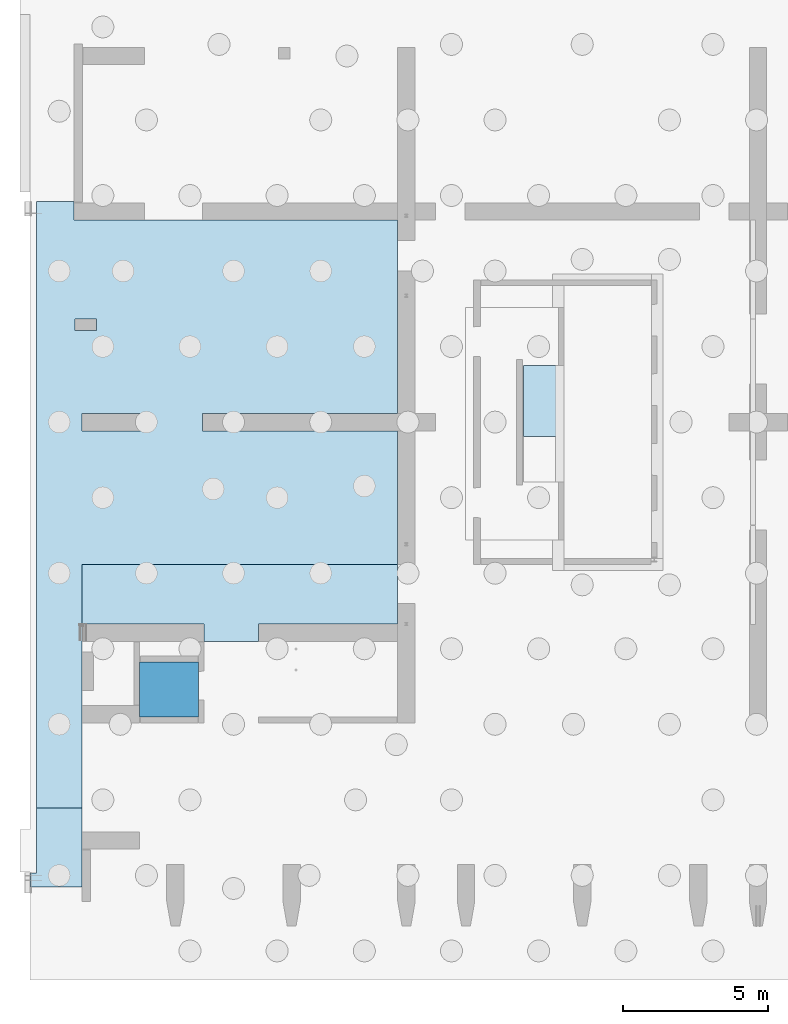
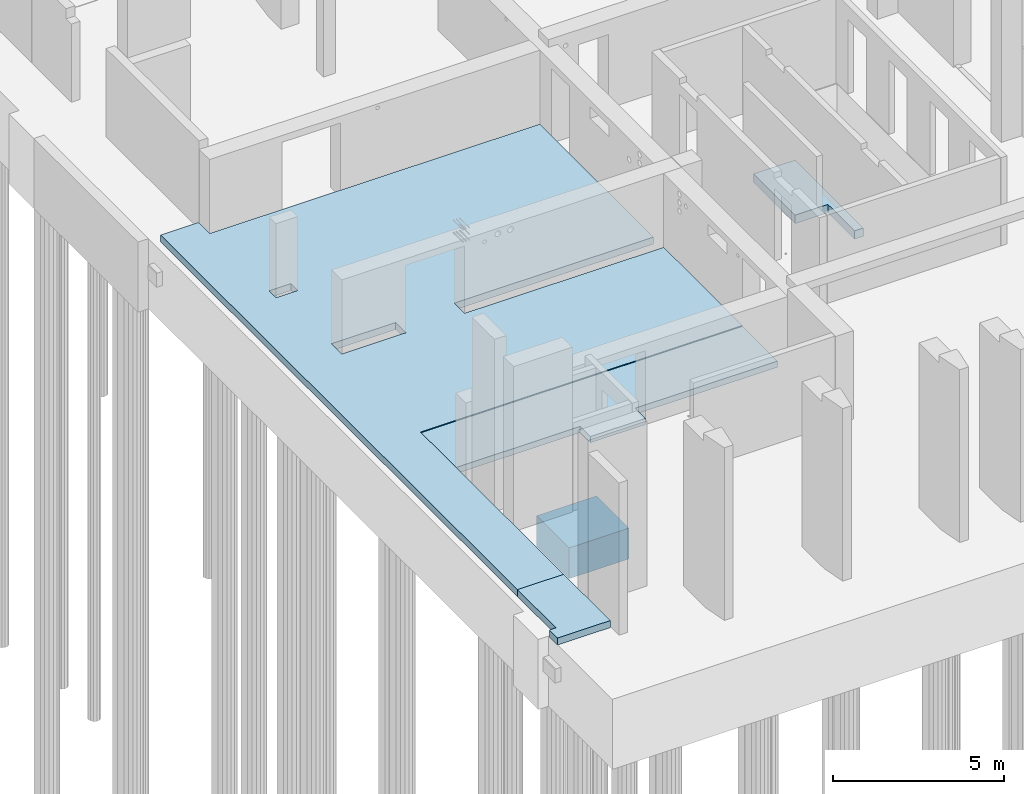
# One storey, part 17 of 26: 5 slabs, 2 openings.
"""IFC2X3 building model written with IfcOpenShell, lengths in millimetres."""

from ifc_helpers import new_model, entity, si_unit, converted_unit, derived_unit, direction, frame, frame_2d, origin, origin_2d_with_axis, place, context, subcontext, project, spatial, polyline, rectangle, outline, extrude, material, layer, layer_set, layer_usage, element, save


model = new_model("IFC2X3")

# Units and contexts
model_context = context("Model", 3, precision=0.01, world=origin(), true_north=direction((6.12303176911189e-17, 1.0)))
body_context = subcontext(model_context, "Body", "Model", "MODEL_VIEW")
ifc_project = project(units=[si_unit("LENGTHUNIT", "METRE", prefix="MILLI"), si_unit("AREAUNIT", "SQUARE_METRE"), si_unit("VOLUMEUNIT", "CUBIC_METRE"), converted_unit("PLANEANGLEUNIT", "DEGREE", entity("IfcRatioMeasure", 0.0174532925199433), si_unit("PLANEANGLEUNIT", "RADIAN"), dimensions=[0, 0, 0, 0, 0, 0, 0]), si_unit("MASSUNIT", "GRAM", prefix="KILO"), derived_unit("MASSDENSITYUNIT", [(si_unit("MASSUNIT", "GRAM", prefix="KILO"), 1), (si_unit("LENGTHUNIT", "METRE"), -3)]), si_unit("TIMEUNIT", "SECOND"), si_unit("FREQUENCYUNIT", "HERTZ"), si_unit("THERMODYNAMICTEMPERATUREUNIT", "DEGREE_CELSIUS"), derived_unit("THERMALTRANSMITTANCEUNIT", [(si_unit("MASSUNIT", "GRAM", prefix="KILO"), 1), (si_unit("THERMODYNAMICTEMPERATUREUNIT", "KELVIN"), -1), (si_unit("TIMEUNIT", "SECOND"), -3)]), derived_unit("VOLUMETRICFLOWRATEUNIT", [(si_unit("LENGTHUNIT", "METRE"), 3), (si_unit("TIMEUNIT", "SECOND"), -1)]), si_unit("ELECTRICCURRENTUNIT", "AMPERE"), si_unit("ELECTRICVOLTAGEUNIT", "VOLT"), si_unit("POWERUNIT", "WATT"), si_unit("FORCEUNIT", "NEWTON", prefix="KILO"), si_unit("ILLUMINANCEUNIT", "LUX"), si_unit("LUMINOUSFLUXUNIT", "LUMEN"), si_unit("LUMINOUSINTENSITYUNIT", "CANDELA"), derived_unit("USERDEFINED", [(si_unit("MASSUNIT", "GRAM", prefix="KILO"), -1), (si_unit("LENGTHUNIT", "METRE"), -2), (si_unit("TIMEUNIT", "SECOND"), 3), (si_unit("LUMINOUSFLUXUNIT", "LUMEN"), 1)]), derived_unit("LINEARVELOCITYUNIT", [(si_unit("LENGTHUNIT", "METRE"), 1), (si_unit("TIMEUNIT", "SECOND"), -1)]), si_unit("PRESSUREUNIT", "PASCAL"), derived_unit("USERDEFINED", [(si_unit("LENGTHUNIT", "METRE"), -2), (si_unit("MASSUNIT", "GRAM", prefix="KILO"), 1), (si_unit("TIMEUNIT", "SECOND"), -2)])], contexts=[model_context])

# Site, building, storey
site_placement = place(None, origin())
site = spatial("IfcSite", under=ifc_project, at=site_placement, Name="Default", CompositionType="ELEMENT")
building_placement = place(site_placement, origin())
building = spatial("IfcBuilding", under=site, at=building_placement, Name="niet gebruiken", CompositionType="ELEMENT")
storey_placement = place(building_placement, origin())
storey = spatial("IfcBuildingStorey", under=building, at=storey_placement, Name="00 begane grond", CompositionType="ELEMENT", Elevation=0.0)

# Slabs
ifc_material = material(Name="NLRS_f2_beton ihwg")
ifc_layer_1 = layer(ifc_material, 300.0)
ifc_layer_set_1 = layer_set([ifc_layer_1], Name="Floor:NLRS_13.22_FL_beton ihwg d=300_gen")
ifc_layer_usage_1 = layer_usage(ifc_layer_set_1, "AXIS3", "POSITIVE", 0.0)
slab_1_placement = place(storey_placement, origin())
element("IfcSlab", 1, at=slab_1_placement, inside=storey, material=ifc_layer_usage_1, Name="Floor:NLRS_13.22_FL_beton ihwg d=300_gen", ObjectType="Floor:NLRS_13.22_FL_beton ihwg d=300_gen", PredefinedType="BASESLAB", context=body_context, shape_type="SweptSolid", body=[
    extrude(outline(polyline([(-293.333333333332, -836.66666666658), (2146.66666666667, -836.66666666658), (2146.66666666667, 568.333333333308), (-1853.33333333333, 568.333333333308), (-1853.33333333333, 268.333333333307), (-293.333333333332, 268.333333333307), (-293.333333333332, -836.66666666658)])), frame((140561.666666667, 17298.333333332, -250.0), z_axis=(0.0, 0.0, -1.0), x_axis=(0.0, 1.0, 0.0)), (0.0, 0.0, 1.0), 300.0),
])
ifc_layer_2 = layer(ifc_material, 1100.0)
ifc_layer_set_2 = layer_set([ifc_layer_2], Name="Floor:NLRS_13.22_FL_beton ihwg d=1100_gen")
ifc_layer_usage_2 = layer_usage(ifc_layer_set_2, "AXIS3", "POSITIVE", 0.0)
slab_2_placement = place(storey_placement, origin())
element("IfcSlab", 2, at=slab_2_placement, inside=storey, material=ifc_layer_usage_2, Name="Floor:NLRS_13.22_FL_beton ihwg d=1100_gen", ObjectType="Floor:NLRS_13.22_FL_beton ihwg d=1100_gen", PredefinedType="BASESLAB", context=body_context, shape_type="SweptSolid", body=[
    extrude(rectangle(XDim=1900.0, YDim=2019.99999999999, at=frame_2d((5.6843418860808e-13, 0.0), x_axis=(1.0, 0.0))), frame((127530.0, 8300.0, -1650.0), z_axis=(0.0, 0.0, -1.0), x_axis=(0.0, 1.0, 0.0)), (0.0, 0.0, 1.0), 1100.0),
])

# Slab, openings
ifc_layer_3 = layer(ifc_material, 250.0)
ifc_layer_set_3 = layer_set([ifc_layer_3], Name="Floor:NLRS_13.22_FL_beton ihwg d=250_gevlinderd en ingestrooid_gen")
ifc_layer_usage_3 = layer_usage(ifc_layer_set_3, "AXIS3", "POSITIVE", 0.0)
slab_3_placement = place(storey_placement, frame((122970.0, 4225.0, -250.0)))
slab_3 = element("IfcSlab", 3, at=slab_3_placement, inside=storey, material=ifc_layer_usage_3, Name="Floor:NLRS_13.22_FL_beton ihwg d=250_gevlinderd en ingestrooid_gen", ObjectType="Floor:NLRS_13.22_FL_beton ihwg d=250_gevlinderd en ingestrooid_gen", PredefinedType="BASESLAB", context=body_context, shape_type="SweptSolid", body=[
    extrude(outline(polyline([(6215.0, -10437.5), (6215.0, 10437.5), (4935.0, 10437.5), (4935.0, 9787.50000000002), (-6215.0, 9787.49999999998), (-6215.0, 3137.49999999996), (510.0, 3137.49999999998), (510.0, 2537.49999999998), (-6215.0, 2537.49999999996), (-6215.0, -2062.50000000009), (4655.0, -2062.50000000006), (4655.0, -10437.5), (6215.0, -10437.5)])), frame((6215.0, 10437.5, 250.0), z_axis=(0.0, 0.0, -1.0), x_axis=(-1.0, 0.0, 0.0)), (0.0, 0.0, 1.0), 250.0),
])
opening_1_placement = place(slab_3_placement, frame((1695.0, 16621.0, 250.0)))
element("IfcOpeningElement", 4, at=opening_1_placement, cuts=slab_3, Name="Floor:NLRS_13.22_FL_beton ihwg d=250_gevlinderd en ingestrooid_gen:2", ObjectType="Opening", context=body_context, shape_type="SweptSolid", body=[
    extrude(rectangle(XDim=400.000000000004, YDim=730.000000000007, at=origin_2d_with_axis()), frame((0.0, 0.0, 0.0), z_axis=(0.0, 0.0, -1.0), x_axis=(0.0, -1.0, 0.0)), (0.0, 0.0, 1.0), 250.0),
])
opening_2_placement = place(slab_3_placement, frame((2640.0, 13275.0, 250.0)))
element("IfcOpeningElement", 5, at=opening_2_placement, cuts=slab_3, Name="Floor:NLRS_13.22_FL_beton ihwg d=250_gevlinderd en ingestrooid_gen:3", ObjectType="Opening", context=body_context, shape_type="SweptSolid", body=[
    extrude(rectangle(XDim=600.000000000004, YDim=2160.00000000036, at=origin_2d_with_axis()), frame((0.0, 0.0, 0.0), z_axis=(0.0, 0.0, -1.0), x_axis=(0.0, -1.0, 0.0)), (0.0, 0.0, 1.0), 250.0),
])

# Slabs
ifc_layer_usage_4 = layer_usage(ifc_layer_set_3, "AXIS3", "POSITIVE", 0.0)
slab_4_placement = place(storey_placement, origin())
element("IfcSlab", 6, at=slab_4_placement, inside=storey, material=ifc_layer_usage_4, Name="Floor:NLRS_13.22_FL_beton ihwg d=250_gevlinderd en ingestrooid_gen", ObjectType="Floor:NLRS_13.22_FL_beton ihwg d=250_gevlinderd en ingestrooid_gen", PredefinedType="BASESLAB", context=body_context, shape_type="SweptSolid", body=[
    extrude(outline(polyline([(-1068.33333333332, -666.66666666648), (-588.333333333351, -666.66666666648), (-588.333333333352, -446.666666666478), (1656.66666666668, -446.666666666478), (1656.66666666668, 1113.33333333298), (-1068.33333333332, 1113.33333333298), (-1068.33333333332, -666.66666666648)])), frame((123416.666666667, 2568.33333333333, 0.0), z_axis=(0.0, 0.0, -1.0), x_axis=(0.0, 1.0, 0.0)), (0.0, 0.0, 1.0), 250.0),
])
ifc_layer_4 = layer(ifc_material, 220.0)
ifc_layer_set_4 = layer_set([ifc_layer_4], Name="Floor:NLRS_13.22_FL_beton ihwg d=220_gevlinderd en ingestrooid_gen")
ifc_layer_usage_5 = layer_usage(ifc_layer_set_4, "AXIS3", "POSITIVE", 0.0)
slab_5_placement = place(storey_placement, origin())
element("IfcSlab", 7, at=slab_5_placement, inside=storey, material=ifc_layer_usage_5, Name="Floor:NLRS_13.22_FL_beton ihwg d=220_gevlinderd en ingestrooid_gen", ObjectType="Floor:NLRS_13.22_FL_beton ihwg d=220_gevlinderd en ingestrooid_gen", PredefinedType="BASESLAB", context=body_context, shape_type="SweptSolid", body=[
    extrude(outline(polyline([(-362.499999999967, -5287.50000000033), (1687.49999999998, -5287.50000000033), (1687.49999999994, 5582.50000000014), (-362.500000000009, 5582.50000000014), (-362.499999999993, 782.500000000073), (-962.499999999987, 782.500000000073), (-962.49999999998, -1077.49999999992), (-362.49999999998, -1077.49999999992), (-362.499999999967, -5287.50000000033)])), frame((129817.5, 10912.5, -30.0), z_axis=(0.0, 0.0, -1.0), x_axis=(0.0, 1.0, 0.0)), (0.0, 0.0, 1.0), 220.0),
])

save(model, "model.ifc")
